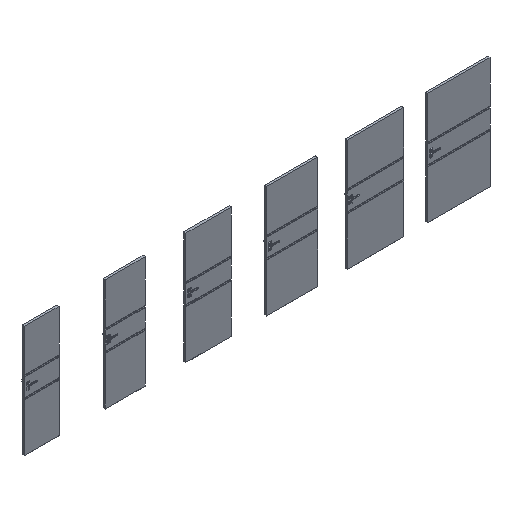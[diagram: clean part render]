
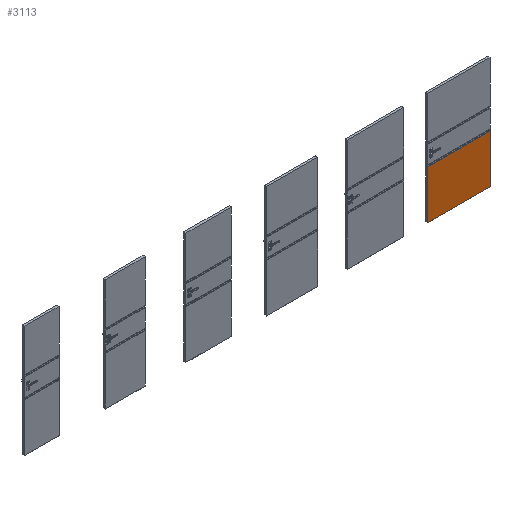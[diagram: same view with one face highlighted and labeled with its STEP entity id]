
A CAD part, isometric view. The second image highlights one B-rep face of the part: STEP entity #3113.
In plain terms, the highlighted planar face has unit normal (0, -1, 0).
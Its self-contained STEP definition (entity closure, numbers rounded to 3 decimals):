
#3113=ADVANCED_FACE('',(#5543),#4493,.F.);
#4493=PLANE('',#25938);
#5543=FACE_OUTER_BOUND('',#7043,.T.);
#7043=EDGE_LOOP('',(#10669,#10670,#10671,#10672));
#10669=ORIENTED_EDGE('',*,*,#18408,.F.);
#10670=ORIENTED_EDGE('',*,*,#18409,.T.);
#10671=ORIENTED_EDGE('',*,*,#18410,.T.);
#10672=ORIENTED_EDGE('',*,*,#18368,.F.);
#15789=VERTEX_POINT('',#38524);
#15791=VERTEX_POINT('',#38527);
#15829=VERTEX_POINT('',#38607);
#15830=VERTEX_POINT('',#38609);
#18368=EDGE_CURVE('',#15789,#15791,#21542,.T.);
#18408=EDGE_CURVE('',#15829,#15789,#21582,.T.);
#18409=EDGE_CURVE('',#15829,#15830,#21583,.T.);
#18410=EDGE_CURVE('',#15830,#15791,#21584,.T.);
#21542=LINE('',#38526,#23906);
#21582=LINE('',#38606,#23946);
#21583=LINE('',#38608,#23947);
#21584=LINE('',#38610,#23948);
#23906=VECTOR('',#29649,1.);
#23946=VECTOR('',#29693,1.);
#23947=VECTOR('',#29694,1.);
#23948=VECTOR('',#29695,1.);
#25938=AXIS2_PLACEMENT_3D('',#38611,#29696,#29697);
#29649=DIRECTION('',(0.,0.,-1.));
#29693=DIRECTION('',(1.,0.,0.));
#29694=DIRECTION('',(0.,0.,-1.));
#29695=DIRECTION('',(1.,0.,0.));
#29696=DIRECTION('',(0.,1.,0.));
#29697=DIRECTION('',(-1.,0.,0.));
#38524=CARTESIAN_POINT('',(8059.,-39.3,870.));
#38526=CARTESIAN_POINT('',(8059.,-39.3,2017.));
#38527=CARTESIAN_POINT('',(8059.,-39.3,2.));
#38606=CARTESIAN_POINT('',(8059.,-39.3,870.));
#38607=CARTESIAN_POINT('',(6941.,-39.3,870.));
#38608=CARTESIAN_POINT('',(6941.,-39.3,2017.));
#38609=CARTESIAN_POINT('',(6941.,-39.3,2.));
#38610=CARTESIAN_POINT('',(7191.,-39.3,2.));
#38611=CARTESIAN_POINT('',(7191.,-39.3,2017.));
